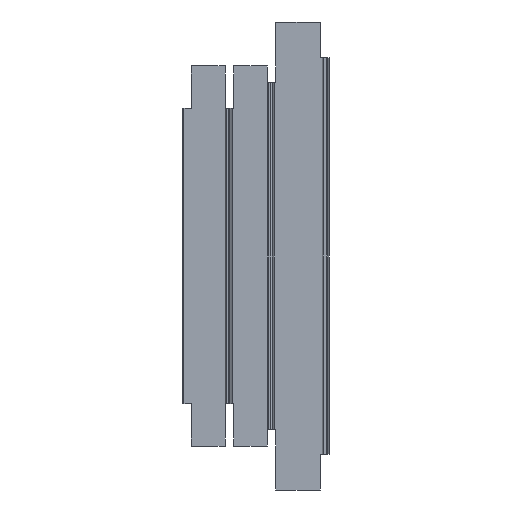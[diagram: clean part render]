
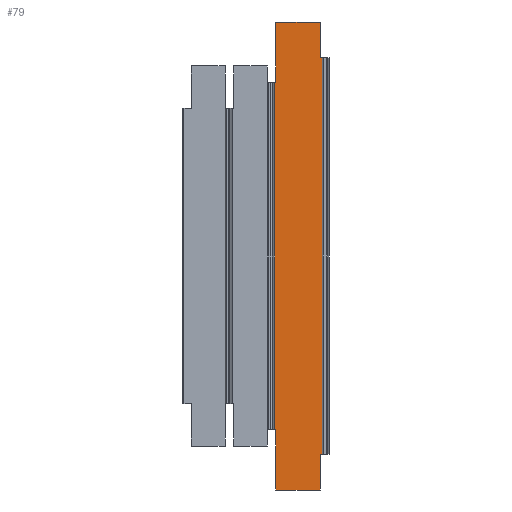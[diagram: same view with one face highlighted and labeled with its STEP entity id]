
A CAD part, front view. The second image highlights one B-rep face of the part: STEP entity #79.
In plain terms, the highlighted planar face has unit normal (0, -1, 0).
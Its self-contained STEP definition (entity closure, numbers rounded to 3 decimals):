
#29=PLANE('',#1610);
#79=ADVANCED_FACE('',(#155),#29,.T.);
#155=FACE_OUTER_BOUND('',#231,.F.);
#231=EDGE_LOOP('',(#340,#341,#342,#343,#344,#345,#346,#347,#348,#349,#350,
#351,#352,#353));
#340=ORIENTED_EDGE('',*,*,#1024,.F.);
#341=ORIENTED_EDGE('',*,*,#976,.T.);
#342=ORIENTED_EDGE('',*,*,#975,.T.);
#343=ORIENTED_EDGE('',*,*,#1010,.T.);
#344=ORIENTED_EDGE('',*,*,#1012,.T.);
#345=ORIENTED_EDGE('',*,*,#983,.T.);
#346=ORIENTED_EDGE('',*,*,#982,.T.);
#347=ORIENTED_EDGE('',*,*,#1023,.T.);
#348=ORIENTED_EDGE('',*,*,#857,.T.);
#349=ORIENTED_EDGE('',*,*,#856,.T.);
#350=ORIENTED_EDGE('',*,*,#1003,.T.);
#351=ORIENTED_EDGE('',*,*,#1001,.T.);
#352=ORIENTED_EDGE('',*,*,#889,.T.);
#353=ORIENTED_EDGE('',*,*,#888,.T.);
#856=EDGE_CURVE('',#1522,#1525,#1078,.T.);
#857=EDGE_CURVE('',#1521,#1522,#1079,.T.);
#888=EDGE_CURVE('',#1488,#1489,#1089,.T.);
#889=EDGE_CURVE('',#1487,#1488,#1090,.T.);
#975=EDGE_CURVE('',#1400,#1399,#1136,.T.);
#976=EDGE_CURVE('',#1401,#1400,#1137,.T.);
#982=EDGE_CURVE('',#1394,#1393,#1143,.T.);
#983=EDGE_CURVE('',#1398,#1394,#1144,.T.);
#1001=EDGE_CURVE('',#1382,#1487,#1153,.T.);
#1003=EDGE_CURVE('',#1525,#1382,#1155,.T.);
#1010=EDGE_CURVE('',#1399,#1379,#1162,.T.);
#1012=EDGE_CURVE('',#1379,#1398,#1164,.T.);
#1023=EDGE_CURVE('',#1393,#1521,#1175,.T.);
#1024=EDGE_CURVE('',#1401,#1489,#1176,.T.);
#1078=LINE('',#2276,#1230);
#1079=LINE('',#2277,#1231);
#1089=LINE('',#2308,#1241);
#1090=LINE('',#2309,#1242);
#1136=LINE('',#2395,#1288);
#1137=LINE('',#2396,#1289);
#1143=LINE('',#2402,#1295);
#1144=LINE('',#2403,#1296);
#1153=LINE('',#2421,#1305);
#1155=LINE('',#2423,#1307);
#1162=LINE('',#2430,#1314);
#1164=LINE('',#2432,#1316);
#1175=LINE('',#2443,#1327);
#1176=LINE('',#2444,#1328);
#1230=VECTOR('',#1681,8.409);
#1231=VECTOR('',#1682,0.595);
#1241=VECTOR('',#1734,0.205);
#1242=VECTOR('',#1735,4.);
#1288=VECTOR('',#1861,4.);
#1289=VECTOR('',#1862,0.205);
#1295=VECTOR('',#1868,0.595);
#1296=VECTOR('',#1869,8.409);
#1305=VECTOR('',#1896,10.409);
#1307=VECTOR('',#1898,10.5);
#1314=VECTOR('',#1905,10.409);
#1316=VECTOR('',#1907,10.5);
#1327=VECTOR('',#1918,94.);
#1328=VECTOR('',#1919,82.);
#1379=VERTEX_POINT('',#2125);
#1382=VERTEX_POINT('',#2128);
#1393=VERTEX_POINT('',#2139);
#1394=VERTEX_POINT('',#2140);
#1398=VERTEX_POINT('',#2144);
#1399=VERTEX_POINT('',#2145);
#1400=VERTEX_POINT('',#2146);
#1401=VERTEX_POINT('',#2147);
#1487=VERTEX_POINT('',#2233);
#1488=VERTEX_POINT('',#2234);
#1489=VERTEX_POINT('',#2235);
#1521=VERTEX_POINT('',#2267);
#1522=VERTEX_POINT('',#2268);
#1525=VERTEX_POINT('',#2271);
#1610=AXIS2_PLACEMENT_3D('',#2506,#1992,#1993);
#1681=DIRECTION('',(0.,0.,-1.));
#1682=DIRECTION('',(-1.,0.,0.));
#1734=DIRECTION('',(-1.,0.,0.));
#1735=DIRECTION('',(0.,0.,1.));
#1861=DIRECTION('',(0.,0.,1.));
#1862=DIRECTION('',(1.,0.,0.));
#1868=DIRECTION('',(1.,0.,0.));
#1869=DIRECTION('',(0.,0.,-1.));
#1896=DIRECTION('',(0.,0.,1.));
#1898=DIRECTION('',(-1.,0.,0.));
#1905=DIRECTION('',(0.,0.,1.));
#1907=DIRECTION('',(1.,0.,0.));
#1918=DIRECTION('',(0.,0.,-1.));
#1919=DIRECTION('',(0.,0.,-1.));
#1992=DIRECTION('',(0.,-1.,0.));
#1993=DIRECTION('',(1.,0.,0.));
#2125=CARTESIAN_POINT('',(386.681,418.513,512.282));
#2128=CARTESIAN_POINT('',(386.681,418.513,401.465));
#2139=CARTESIAN_POINT('',(397.776,418.513,503.874));
#2140=CARTESIAN_POINT('',(397.181,418.513,503.874));
#2144=CARTESIAN_POINT('',(397.181,418.513,512.282));
#2145=CARTESIAN_POINT('',(386.681,418.513,501.874));
#2146=CARTESIAN_POINT('',(386.681,418.513,497.874));
#2147=CARTESIAN_POINT('',(386.476,418.513,497.874));
#2233=CARTESIAN_POINT('',(386.681,418.513,411.874));
#2234=CARTESIAN_POINT('',(386.681,418.513,415.874));
#2235=CARTESIAN_POINT('',(386.476,418.513,415.874));
#2267=CARTESIAN_POINT('',(397.776,418.513,409.874));
#2268=CARTESIAN_POINT('',(397.181,418.513,409.874));
#2271=CARTESIAN_POINT('',(397.181,418.513,401.465));
#2276=CARTESIAN_POINT('',(397.181,418.513,409.874));
#2277=CARTESIAN_POINT('',(397.776,418.513,409.874));
#2308=CARTESIAN_POINT('',(386.681,418.513,415.874));
#2309=CARTESIAN_POINT('',(386.681,418.513,411.874));
#2395=CARTESIAN_POINT('',(386.681,418.513,497.874));
#2396=CARTESIAN_POINT('',(386.476,418.513,497.874));
#2402=CARTESIAN_POINT('',(397.181,418.513,503.874));
#2403=CARTESIAN_POINT('',(397.181,418.513,512.282));
#2421=CARTESIAN_POINT('',(386.681,418.513,401.465));
#2423=CARTESIAN_POINT('',(397.181,418.513,401.465));
#2430=CARTESIAN_POINT('',(386.681,418.513,501.874));
#2432=CARTESIAN_POINT('',(386.681,418.513,512.282));
#2443=CARTESIAN_POINT('',(397.776,418.513,503.874));
#2444=CARTESIAN_POINT('',(386.476,418.513,497.874));
#2506=CARTESIAN_POINT('',(385.276,418.513,395.674));
